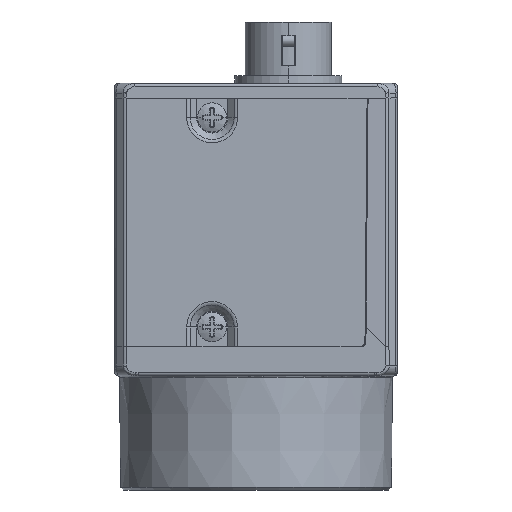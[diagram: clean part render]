
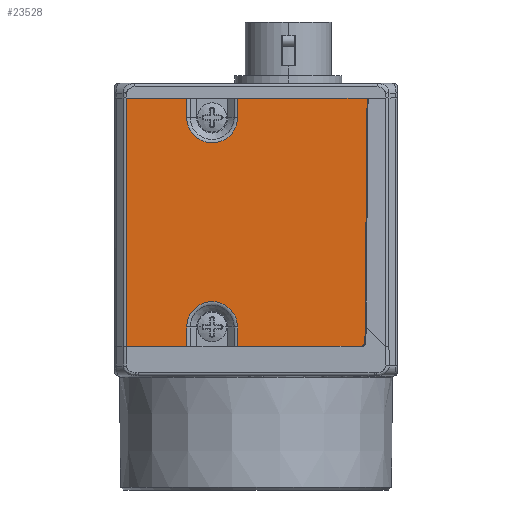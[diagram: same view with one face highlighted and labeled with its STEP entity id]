
A CAD part, left-side view. The second image highlights one B-rep face of the part: STEP entity #23528.
In plain terms, the highlighted planar face has unit normal (-1, 0, 0).
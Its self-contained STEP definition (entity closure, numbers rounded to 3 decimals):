
#869=DIRECTION('',(0.,1.,0.));
#870=VECTOR('',#869,6.185);
#871=CARTESIAN_POINT('',(-14.5,7.107,23.));
#872=LINE('',#871,#870);
#957=DIRECTION('',(0.,1.,0.));
#958=VECTOR('',#957,13.293);
#959=CARTESIAN_POINT('',(-14.5,-11.4,23.));
#960=LINE('',#959,#958);
#961=DIRECTION('',(0.,1.,0.));
#962=VECTOR('',#961,6.186);
#963=CARTESIAN_POINT('',(-14.5,7.107,-2.5));
#964=LINE('',#963,#962);
#965=CARTESIAN_POINT('',(-14.5,4.5,21.));
#966=DIRECTION('',(-1.,0.,0.));
#967=DIRECTION('',(0.,1.,0.));
#968=AXIS2_PLACEMENT_3D('',#965,#966,#967);
#970=CARTESIAN_POINT('',(-14.5,4.5,21.));
#971=DIRECTION('',(-1.,0.,0.));
#972=DIRECTION('',(0.,0.994,-0.109));
#973=AXIS2_PLACEMENT_3D('',#970,#971,#972);
#975=DIRECTION('',(0.,0.009,-1.));
#976=VECTOR('',#975,25.005);
#977=CARTESIAN_POINT('',(-14.5,-11.4,23.));
#978=LINE('',#977,#976);
#979=CARTESIAN_POINT('',(-14.5,-10.682,-2.));
#980=DIRECTION('',(1.,0.,0.));
#981=DIRECTION('',(0.,-1.,-0.009));
#982=AXIS2_PLACEMENT_3D('',#979,#980,#981);
#984=DIRECTION('',(0.,1.,0.));
#985=VECTOR('',#984,12.575);
#986=CARTESIAN_POINT('',(-14.5,-10.682,-2.5));
#987=LINE('',#986,#985);
#988=CARTESIAN_POINT('',(-14.5,4.5,-0.5));
#989=DIRECTION('',(-1.,0.,0.));
#990=DIRECTION('',(0.,-1.,0.));
#991=AXIS2_PLACEMENT_3D('',#988,#989,#990);
#993=CARTESIAN_POINT('',(-14.5,4.5,-0.5));
#994=DIRECTION('',(-1.,0.,0.));
#995=DIRECTION('',(0.,-0.994,0.109));
#996=AXIS2_PLACEMENT_3D('',#993,#994,#995);
#1137=DIRECTION('',(0.,0.,1.));
#1138=VECTOR('',#1137,2.);
#1139=CARTESIAN_POINT('',(-14.5,7.107,
-2.5));
#1140=LINE('',#1139,#1138);
#1169=DIRECTION('',(0.,0.,-1.));
#1170=VECTOR('',#1169,2.);
#1171=CARTESIAN_POINT('',(-14.5,1.893,-0.5));
#1172=LINE('',#1171,#1170);
#6413=DIRECTION('',(0.,0.,-1.));
#6414=VECTOR('',#6413,25.5);
#6415=CARTESIAN_POINT('',(-14.5,13.292,23.));
#6416=LINE('',#6415,#6414);
#11477=DIRECTION('',(0.,0.,1.));
#11478=VECTOR('',#11477,2.);
#11479=CARTESIAN_POINT('',(-14.5,7.107,21.));
#11480=LINE('',#11479,#11478);
#11503=DIRECTION('',(0.,0.,-1.));
#11504=VECTOR('',#11503,2.);
#11505=CARTESIAN_POINT('',(-14.5,1.893,
23.));
#11506=LINE('',#11505,#11504);
#18500=CARTESIAN_POINT('',(-14.5,1.893,23.));
#18501=VERTEX_POINT('',#18500);
#18504=CARTESIAN_POINT('',(-14.5,7.107,23.));
#18505=VERTEX_POINT('',#18504);
#18506=CARTESIAN_POINT('',(-14.5,1.893,21.));
#18507=VERTEX_POINT('',#18506);
#18508=CARTESIAN_POINT('',(-14.5,7.107,
-2.5));
#18509=CARTESIAN_POINT('',(-14.5,13.293,
-2.5));
#18510=VERTEX_POINT('',#18508);
#18511=VERTEX_POINT('',#18509);
#18512=CARTESIAN_POINT('',(-14.5,13.292,
23.));
#18513=VERTEX_POINT('',#18512);
#18514=CARTESIAN_POINT('',(-14.5,7.107,21.));
#18515=VERTEX_POINT('',#18514);
#18516=CARTESIAN_POINT('',(-14.5,7.092,20.716));
#18517=VERTEX_POINT('',#18516);
#18518=CARTESIAN_POINT('',(-14.5,-11.4,
23.));
#18519=VERTEX_POINT('',#18518);
#18520=CARTESIAN_POINT('',(-14.5,-11.182,
-2.004));
#18521=VERTEX_POINT('',#18520);
#18522=CARTESIAN_POINT('',(-14.5,-10.682,-2.5));
#18523=VERTEX_POINT('',#18522);
#18524=CARTESIAN_POINT('',(-14.5,1.893,
-2.5));
#18525=VERTEX_POINT('',#18524);
#18526=CARTESIAN_POINT('',(-14.5,1.893,-0.5));
#18527=VERTEX_POINT('',#18526);
#18528=CARTESIAN_POINT('',(-14.5,1.908,-0.216));
#18529=VERTEX_POINT('',#18528);
#18530=CARTESIAN_POINT('',(-14.5,7.107,-0.5));
#18531=VERTEX_POINT('',#18530);
#23493=CARTESIAN_POINT('',(-14.5,0.946,10.25));
#23494=DIRECTION('',(1.,0.,0.));
#23495=DIRECTION('',(0.,-1.,0.));
#23496=AXIS2_PLACEMENT_3D('',#23493,#23494,#23495);
#23497=PLANE('',#23496);
#23499=ORIENTED_EDGE('',*,*,#23498,.T.);
#23501=ORIENTED_EDGE('',*,*,#23500,.F.);
#23502=ORIENTED_EDGE('',*,*,#23471,.F.);
#23504=ORIENTED_EDGE('',*,*,#23503,.F.);
#23506=ORIENTED_EDGE('',*,*,#23505,.T.);
#23508=ORIENTED_EDGE('',*,*,#23507,.T.);
#23510=ORIENTED_EDGE('',*,*,#23509,.F.);
#23511=ORIENTED_EDGE('',*,*,#23486,.F.);
#23513=ORIENTED_EDGE('',*,*,#23512,.T.);
#23515=ORIENTED_EDGE('',*,*,#23514,.T.);
#23517=ORIENTED_EDGE('',*,*,#23516,.T.);
#23519=ORIENTED_EDGE('',*,*,#23518,.F.);
#23521=ORIENTED_EDGE('',*,*,#23520,.T.);
#23523=ORIENTED_EDGE('',*,*,#23522,.T.);
#23525=ORIENTED_EDGE('',*,*,#23524,.F.);
#23526=EDGE_LOOP('',(#23499,#23501,#23502,#23504,#23506,#23508,#23510,#23511,
#23513,#23515,#23517,#23519,#23521,#23523,#23525));
#23527=FACE_OUTER_BOUND('',#23526,.F.);
#23528=ADVANCED_FACE('',(#23527),#23497,.F.);
#969=CIRCLE('',#968,2.607);
#974=CIRCLE('',#973,2.607);
#983=CIRCLE('',#982,0.5);
#992=CIRCLE('',#991,2.607);
#997=CIRCLE('',#996,2.607);
#23471=EDGE_CURVE('',#18505,#18513,#872,.T.);
#23486=EDGE_CURVE('',#18519,#18501,#960,.T.);
#23498=EDGE_CURVE('',#18510,#18511,#964,.T.);
#23500=EDGE_CURVE('',#18513,#18511,#6416,.T.);
#23503=EDGE_CURVE('',#18515,#18505,#11480,.T.);
#23505=EDGE_CURVE('',#18515,#18517,#969,.T.);
#23507=EDGE_CURVE('',#18517,#18507,#974,.T.);
#23509=EDGE_CURVE('',#18501,#18507,#11506,.T.);
#23512=EDGE_CURVE('',#18519,#18521,#978,.T.);
#23514=EDGE_CURVE('',#18521,#18523,#983,.T.);
#23516=EDGE_CURVE('',#18523,#18525,#987,.T.);
#23518=EDGE_CURVE('',#18527,#18525,#1172,.T.);
#23520=EDGE_CURVE('',#18527,#18529,#992,.T.);
#23522=EDGE_CURVE('',#18529,#18531,#997,.T.);
#23524=EDGE_CURVE('',#18510,#18531,#1140,.T.);
